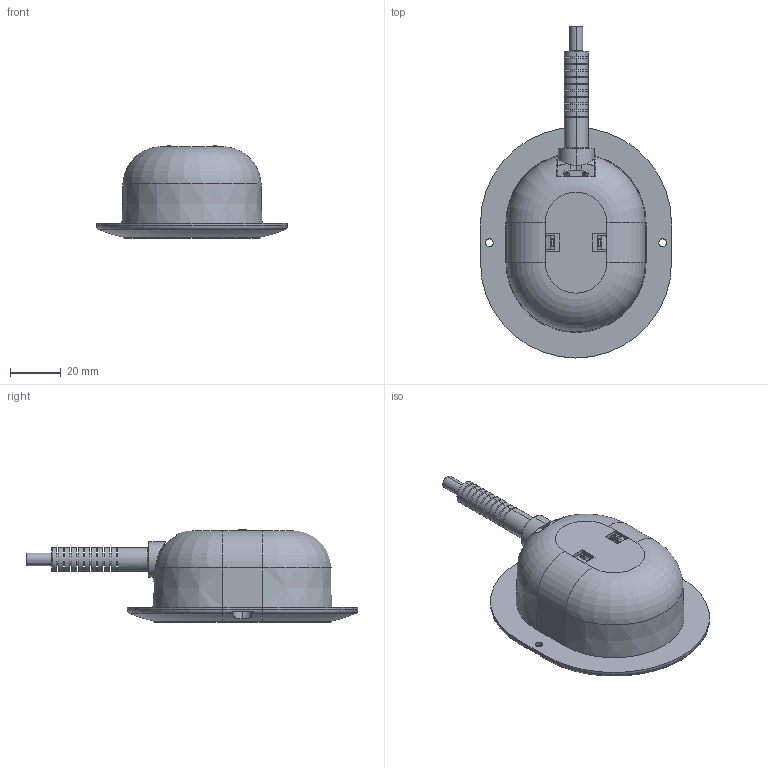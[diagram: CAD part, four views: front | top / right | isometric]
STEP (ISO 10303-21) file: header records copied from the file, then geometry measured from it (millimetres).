
FILE_DESCRIPTION (( 'STEP AP203' ), '1' );
FILE_NAME ('3D-TH4-4Buttons-A.STEP', '2010-03-17T03:00:47', ( 'Jeremy' ), ( 'Microsoft' ), 'SwSTEP 2.0', 'SolidWorks 2005179', '' );
FILE_SCHEMA (( 'CONFIG_CONTROL_DESIGN' ));
Length unit declared in the file: millimetre
Products named in the file (1): 3D-TH4-4Buttons-A
Bounding box: 75 x 130.29 x 36.5 mm (x, y, z)
Volume: 114250.5 mm3; surface area: 22147.9 mm2
Topology: 1 solids, 3 shells, 408 faces, 1099 edges, 690 vertices
Faces by surface type: plane 199, cylinder 108, bspline 54, torus 37, cone 10
Entity records: 28390 total; most frequent: CARTESIAN_POINT 18450, ORIENTED_EDGE 2174, DIRECTION 1946, EDGE_CURVE 1087, AXIS2_PLACEMENT_3D 713, VERTEX_POINT 690, VECTOR 520, LINE 520
